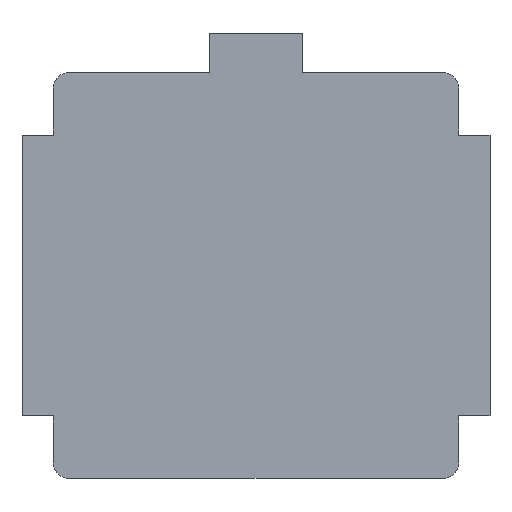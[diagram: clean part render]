
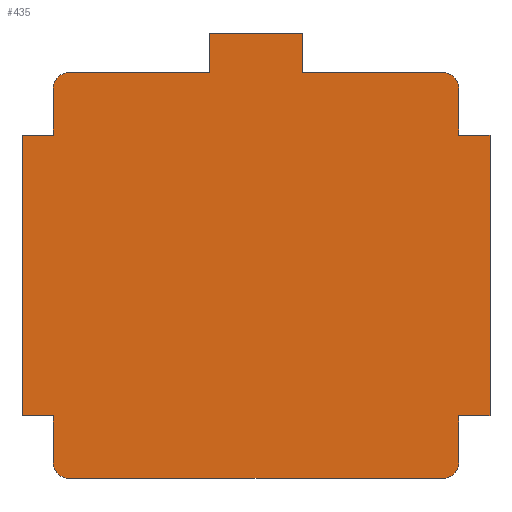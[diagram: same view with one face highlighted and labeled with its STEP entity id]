
A CAD part, front view. The second image highlights one B-rep face of the part: STEP entity #435.
In plain terms, the highlighted planar face has unit normal (0, -1, 0).
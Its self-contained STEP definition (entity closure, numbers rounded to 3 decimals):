
#2=DIRECTION('',(1.,0.,0.));
#3=VECTOR('',#2,0.9);
#4=CARTESIAN_POINT('',(-1.2,0.,1.3));
#5=LINE('',#4,#3);
#6=DIRECTION('',(0.,0.,1.));
#7=VECTOR('',#6,0.25);
#8=CARTESIAN_POINT('',(-0.3,0.,1.3));
#9=LINE('',#8,#7);
#10=DIRECTION('',(1.,0.,0.));
#11=VECTOR('',#10,0.6);
#12=CARTESIAN_POINT('',(-0.3,0.,1.55));
#13=LINE('',#12,#11);
#14=DIRECTION('',(0.,0.,-1.));
#15=VECTOR('',#14,0.25);
#16=CARTESIAN_POINT('',(0.3,0.,1.55));
#17=LINE('',#16,#15);
#18=DIRECTION('',(1.,0.,0.));
#19=VECTOR('',#18,0.9);
#20=CARTESIAN_POINT('',(0.3,0.,1.3));
#21=LINE('',#20,#19);
#22=DIRECTION('',(0.,0.,-1.));
#23=VECTOR('',#22,0.3);
#24=CARTESIAN_POINT('',(1.3,0.,1.2));
#25=LINE('',#24,#23);
#26=DIRECTION('',(1.,0.,0.));
#27=VECTOR('',#26,0.2);
#28=CARTESIAN_POINT('',(1.3,0.,0.9));
#29=LINE('',#28,#27);
#30=DIRECTION('',(0.,0.,-1.));
#31=VECTOR('',#30,1.8);
#32=CARTESIAN_POINT('',(1.5,0.,0.9));
#33=LINE('',#32,#31);
#34=DIRECTION('',(-1.,0.,0.));
#35=VECTOR('',#34,0.2);
#36=CARTESIAN_POINT('',(1.5,0.,-0.9));
#37=LINE('',#36,#35);
#38=DIRECTION('',(0.,0.,-1.));
#39=VECTOR('',#38,0.3);
#40=CARTESIAN_POINT('',(1.3,0.,-0.9));
#41=LINE('',#40,#39);
#42=DIRECTION('',(-1.,0.,0.));
#43=VECTOR('',#42,2.4);
#44=CARTESIAN_POINT('',(1.2,0.,-1.3));
#45=LINE('',#44,#43);
#46=DIRECTION('',(0.,0.,1.));
#47=VECTOR('',#46,0.3);
#48=CARTESIAN_POINT('',(-1.3,0.,-1.2));
#49=LINE('',#48,#47);
#50=DIRECTION('',(-1.,0.,0.));
#51=VECTOR('',#50,0.2);
#52=CARTESIAN_POINT('',(-1.3,0.,-0.9));
#53=LINE('',#52,#51);
#54=DIRECTION('',(0.,0.,1.));
#55=VECTOR('',#54,1.8);
#56=CARTESIAN_POINT('',(-1.5,0.,-0.9));
#57=LINE('',#56,#55);
#58=DIRECTION('',(1.,0.,0.));
#59=VECTOR('',#58,0.2);
#60=CARTESIAN_POINT('',(-1.5,0.,0.9));
#61=LINE('',#60,#59);
#62=DIRECTION('',(0.,0.,1.));
#63=VECTOR('',#62,0.3);
#64=CARTESIAN_POINT('',(-1.3,0.,0.9));
#65=LINE('',#64,#63);
#79=CARTESIAN_POINT('',(-1.2,0.,1.2));
#80=DIRECTION('',(0.,-1.,0.));
#81=DIRECTION('',(0.,0.,1.));
#82=AXIS2_PLACEMENT_3D('',#79,#80,#81);
#227=CARTESIAN_POINT('',(-1.2,0.,-1.2));
#228=DIRECTION('',(0.,-1.,0.));
#229=DIRECTION('',(-1.,0.,0.));
#230=AXIS2_PLACEMENT_3D('',#227,#228,#229);
#245=CARTESIAN_POINT('',(1.2,0.,-1.2));
#246=DIRECTION('',(0.,-1.,0.));
#247=DIRECTION('',(0.,0.,-1.));
#248=AXIS2_PLACEMENT_3D('',#245,#246,#247);
#275=CARTESIAN_POINT('',(1.2,0.,1.2));
#276=DIRECTION('',(0.,-1.,0.));
#277=DIRECTION('',(1.,0.,0.));
#278=AXIS2_PLACEMENT_3D('',#275,#276,#277);
#300=CARTESIAN_POINT('',(1.5,0.,0.9));
#301=CARTESIAN_POINT('',(1.5,0.,-0.9));
#302=VERTEX_POINT('',#300);
#303=VERTEX_POINT('',#301);
#304=CARTESIAN_POINT('',(-1.5,0.,-0.9));
#305=CARTESIAN_POINT('',(-1.5,0.,0.9));
#306=VERTEX_POINT('',#304);
#307=VERTEX_POINT('',#305);
#308=CARTESIAN_POINT('',(-0.3,0.,1.55));
#309=CARTESIAN_POINT('',(0.3,0.,1.55));
#310=VERTEX_POINT('',#308);
#311=VERTEX_POINT('',#309);
#328=CARTESIAN_POINT('',(0.3,0.,1.3));
#329=VERTEX_POINT('',#328);
#330=CARTESIAN_POINT('',(-0.3,0.,1.3));
#331=VERTEX_POINT('',#330);
#336=CARTESIAN_POINT('',(1.3,0.,0.9));
#337=VERTEX_POINT('',#336);
#338=CARTESIAN_POINT('',(1.3,0.,-0.9));
#339=VERTEX_POINT('',#338);
#344=CARTESIAN_POINT('',(-1.3,0.,-0.9));
#345=VERTEX_POINT('',#344);
#346=CARTESIAN_POINT('',(-1.3,0.,0.9));
#347=VERTEX_POINT('',#346);
#357=CARTESIAN_POINT('',(-1.3,0.,1.2));
#359=VERTEX_POINT('',#357);
#362=CARTESIAN_POINT('',(-1.2,0.,1.3));
#363=VERTEX_POINT('',#362);
#365=CARTESIAN_POINT('',(1.2,0.,1.3));
#367=VERTEX_POINT('',#365);
#370=CARTESIAN_POINT('',(1.3,0.,1.2));
#371=VERTEX_POINT('',#370);
#373=CARTESIAN_POINT('',(-1.2,0.,-1.3));
#375=VERTEX_POINT('',#373);
#378=CARTESIAN_POINT('',(-1.3,0.,-1.2));
#379=VERTEX_POINT('',#378);
#381=CARTESIAN_POINT('',(1.3,0.,-1.2));
#383=VERTEX_POINT('',#381);
#386=CARTESIAN_POINT('',(1.2,0.,-1.3));
#387=VERTEX_POINT('',#386);
#388=CARTESIAN_POINT('',(0.,0.,0.));
#389=DIRECTION('',(0.,1.,0.));
#390=DIRECTION('',(1.,0.,0.));
#391=AXIS2_PLACEMENT_3D('',#388,#389,#390);
#392=PLANE('',#391);
#394=ORIENTED_EDGE('',*,*,#393,.F.);
#396=ORIENTED_EDGE('',*,*,#395,.T.);
#398=ORIENTED_EDGE('',*,*,#397,.T.);
#400=ORIENTED_EDGE('',*,*,#399,.T.);
#402=ORIENTED_EDGE('',*,*,#401,.T.);
#404=ORIENTED_EDGE('',*,*,#403,.T.);
#406=ORIENTED_EDGE('',*,*,#405,.F.);
#408=ORIENTED_EDGE('',*,*,#407,.T.);
#410=ORIENTED_EDGE('',*,*,#409,.T.);
#412=ORIENTED_EDGE('',*,*,#411,.T.);
#414=ORIENTED_EDGE('',*,*,#413,.T.);
#416=ORIENTED_EDGE('',*,*,#415,.T.);
#418=ORIENTED_EDGE('',*,*,#417,.F.);
#420=ORIENTED_EDGE('',*,*,#419,.T.);
#422=ORIENTED_EDGE('',*,*,#421,.F.);
#424=ORIENTED_EDGE('',*,*,#423,.T.);
#426=ORIENTED_EDGE('',*,*,#425,.T.);
#428=ORIENTED_EDGE('',*,*,#427,.T.);
#430=ORIENTED_EDGE('',*,*,#429,.T.);
#432=ORIENTED_EDGE('',*,*,#431,.T.);
#433=EDGE_LOOP('',(#394,#396,#398,#400,#402,#404,#406,#408,#410,#412,#414,#416,
#418,#420,#422,#424,#426,#428,#430,#432));
#434=FACE_OUTER_BOUND('',#433,.F.);
#435=ADVANCED_FACE('',(#434),#392,.F.);
#83=CIRCLE('',#82,0.1);
#231=CIRCLE('',#230,0.1);
#249=CIRCLE('',#248,0.1);
#279=CIRCLE('',#278,0.1);
#393=EDGE_CURVE('',#363,#359,#83,.T.);
#395=EDGE_CURVE('',#363,#331,#5,.T.);
#397=EDGE_CURVE('',#331,#310,#9,.T.);
#399=EDGE_CURVE('',#310,#311,#13,.T.);
#401=EDGE_CURVE('',#311,#329,#17,.T.);
#403=EDGE_CURVE('',#329,#367,#21,.T.);
#405=EDGE_CURVE('',#371,#367,#279,.T.);
#407=EDGE_CURVE('',#371,#337,#25,.T.);
#409=EDGE_CURVE('',#337,#302,#29,.T.);
#411=EDGE_CURVE('',#302,#303,#33,.T.);
#413=EDGE_CURVE('',#303,#339,#37,.T.);
#415=EDGE_CURVE('',#339,#383,#41,.T.);
#417=EDGE_CURVE('',#387,#383,#249,.T.);
#419=EDGE_CURVE('',#387,#375,#45,.T.);
#421=EDGE_CURVE('',#379,#375,#231,.T.);
#423=EDGE_CURVE('',#379,#345,#49,.T.);
#425=EDGE_CURVE('',#345,#306,#53,.T.);
#427=EDGE_CURVE('',#306,#307,#57,.T.);
#429=EDGE_CURVE('',#307,#347,#61,.T.);
#431=EDGE_CURVE('',#347,#359,#65,.T.);
